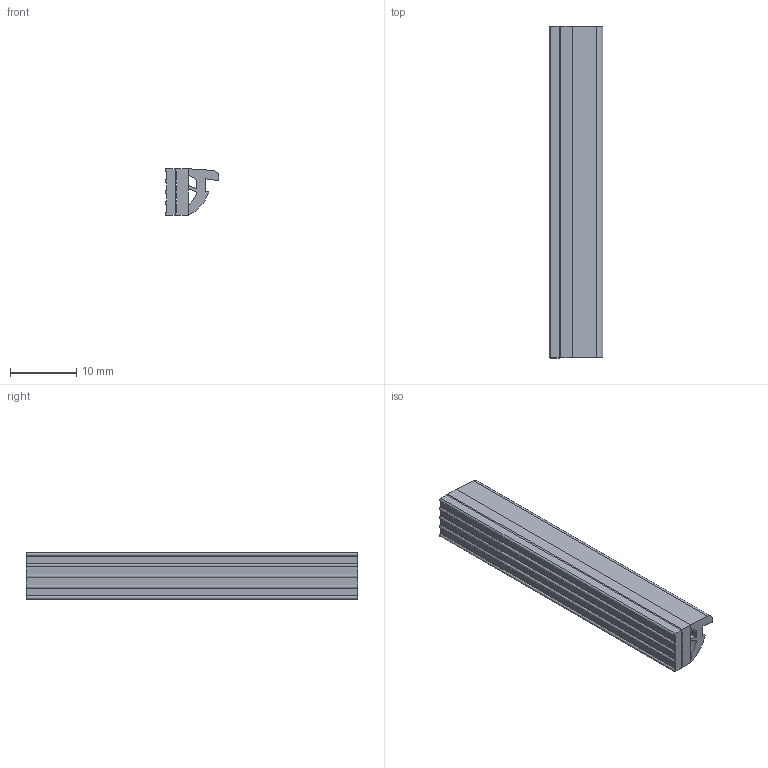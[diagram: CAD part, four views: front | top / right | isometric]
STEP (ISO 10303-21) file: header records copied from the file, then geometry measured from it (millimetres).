
FILE_DESCRIPTION(('STEP AP214'),'1');
FILE_NAME('RP2C.stp','2021-05-26T09:18:10',(' '),(' '),'Spatial InterOp 3D',' ',' ');
FILE_SCHEMA(('AUTOMOTIVE_DESIGN { 1 0 10303 214 1 1 1 1 }'));
Length unit declared in the file: millimetre
Products named in the file (4): RP2C; RP2C_0; RP2C_2; RP2C_1
Assembly tree (3 placements, depth 2):
  RP2C
    RP2C_0
    RP2C_2
    RP2C_1
Bounding box: 8.1 x 50 x 7 mm (x, y, z)
Volume: 1825.9 mm3; surface area: 3210.3 mm2
Topology: 3 solids, 3 shells, 46 faces, 120 edges, 80 vertices
Faces by surface type: plane 32, cylinder 14
Entity records: 1865 total; most frequent: CARTESIAN_POINT 250, DIRECTION 248, ORIENTED_EDGE 240, EDGE_CURVE 120, LINE 92, VECTOR 92, VERTEX_POINT 80, AXIS2_PLACEMENT_3D 78
